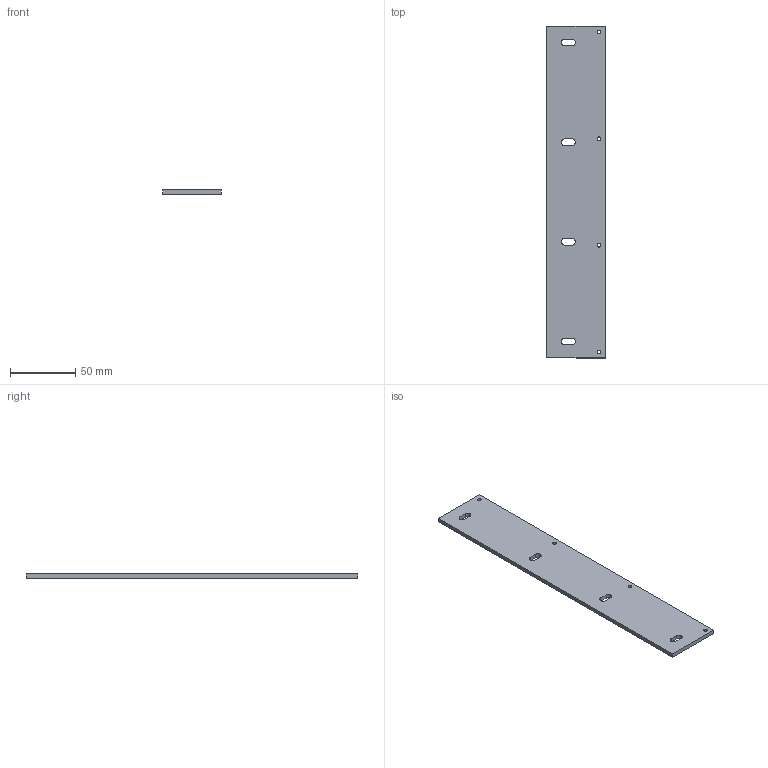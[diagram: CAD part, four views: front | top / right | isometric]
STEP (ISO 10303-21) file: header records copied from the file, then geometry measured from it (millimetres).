
FILE_DESCRIPTION (( 'STEP AP203' ), '1' );
FILE_NAME ('Rack Plate.STEP', '2014-01-27T21:39:22', ( 'Neil' ), ( 'Hewlett-Packard Company' ), 'SwSTEP 2.0', 'SolidWorks 2010', '' );
FILE_SCHEMA (( 'CONFIG_CONTROL_DESIGN' ));
Length unit declared in the file: inch
Products named in the file (1): Rack Plate
Bounding box: 44.45 x 254 x 3.17 mm (x, y, z)
Volume: 35163.7 mm3; surface area: 24497.2 mm2
Topology: 1 solids, 1 shells, 34 faces, 96 edges, 64 vertices
Faces by surface type: cylinder 20, plane 14
Entity records: 1231 total; most frequent: DIRECTION 206, CARTESIAN_POINT 195, ORIENTED_EDGE 192, EDGE_CURVE 96, AXIS2_PLACEMENT_3D 75, VERTEX_POINT 64, VECTOR 56, LINE 56
